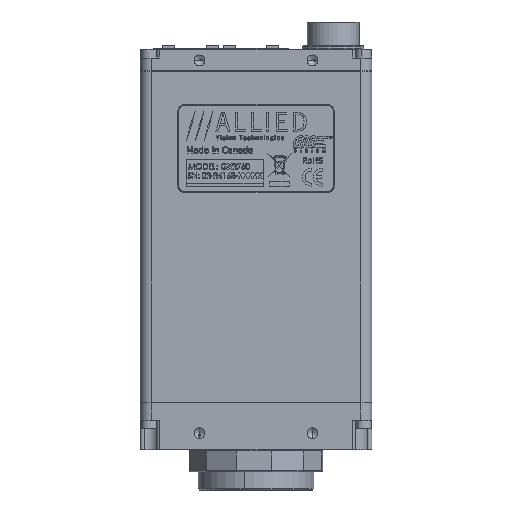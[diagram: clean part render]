
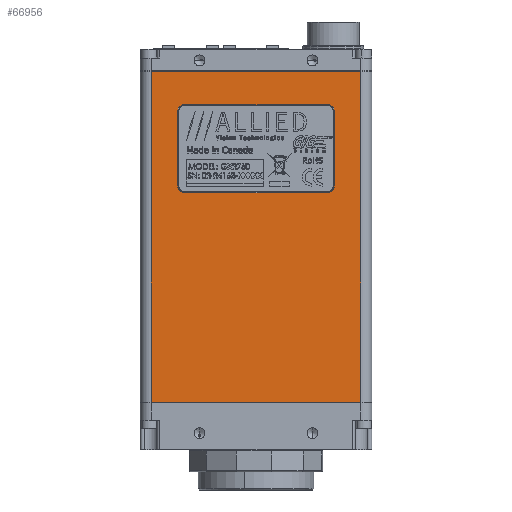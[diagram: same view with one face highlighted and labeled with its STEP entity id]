
A CAD part, front view. The second image highlights one B-rep face of the part: STEP entity #66956.
In plain terms, the highlighted planar face has unit normal (0, -1, 0).
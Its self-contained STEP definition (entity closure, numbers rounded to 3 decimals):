
#855 = CARTESIAN_POINT ( 'NONE',  ( -16.447, -10.16, 30.48 ) ) ;
#2785 = EDGE_CURVE ( 'NONE', #135751, #115791, #13933, .T. ) ;
#3092 = EDGE_CURVE ( 'NONE', #115791, #121587, #55511, .T. ) ;
#5045 = AXIS2_PLACEMENT_3D ( 'NONE', #188997, #91171, #204905 ) ;
#5334 = ORIENTED_EDGE ( 'NONE', *, *, #208596, .T. ) ;
#9314 = DIRECTION ( 'NONE',  ( 1., 0., 0. ) ) ;
#10753 = CARTESIAN_POINT ( 'NONE',  ( 24.13, -10.16, 38.1 ) ) ;
#13933 = LINE ( 'NONE', #189451, #52971 ) ;
#19372 = LINE ( 'NONE', #157946, #102295 ) ;
#19750 = CIRCLE ( 'NONE', #5045, 1.587 ) ;
#20200 = CARTESIAN_POINT ( 'NONE',  ( 16.447, -10.16, 28.893 ) ) ;
#20415 = ORIENTED_EDGE ( 'NONE', *, *, #202386, .T. ) ;
#20848 = ORIENTED_EDGE ( 'NONE', *, *, #206817, .T. ) ;
#26908 = CARTESIAN_POINT ( 'NONE',  ( 16.447, -10.16, 30.48 ) ) ;
#27392 = CARTESIAN_POINT ( 'NONE',  ( -16.447, -10.16, 10.16 ) ) ;
#30774 = DIRECTION ( 'NONE',  ( 0., -1., 0. ) ) ;
#32711 = VECTOR ( 'NONE', #134606, 1000. ) ;
#35725 = CARTESIAN_POINT ( 'NONE',  ( 24.13, -10.16, -38.1 ) ) ;
#36819 = DIRECTION ( 'NONE',  ( 1., 0., 0. ) ) ;
#37914 = CARTESIAN_POINT ( 'NONE',  ( -24.13, -10.16, 38.1 ) ) ;
#39079 = EDGE_LOOP ( 'NONE', ( #54388, #59608, #54595, #52107 ) ) ;
#40817 = AXIS2_PLACEMENT_3D ( 'NONE', #205578, #108561, #9314 ) ;
#43654 = FACE_OUTER_BOUND ( 'NONE', #39079, .T. ) ;
#45213 = DIRECTION ( 'NONE',  ( 0., 1., 0. ) ) ;
#49746 = LINE ( 'NONE', #142768, #175531 ) ;
#51644 = CARTESIAN_POINT ( 'NONE',  ( 18.034, -10.16, -92.399 ) ) ;
#52107 = ORIENTED_EDGE ( 'NONE', *, *, #211864, .T. ) ;
#52971 = VECTOR ( 'NONE', #180386, 1000. ) ;
#54388 = ORIENTED_EDGE ( 'NONE', *, *, #2785, .T. ) ;
#54595 = ORIENTED_EDGE ( 'NONE', *, *, #210408, .T. ) ;
#55511 = LINE ( 'NONE', #149019, #203537 ) ;
#56293 = CARTESIAN_POINT ( 'NONE',  ( 24.13, -10.16, -92.399 ) ) ;
#59608 = ORIENTED_EDGE ( 'NONE', *, *, #3092, .T. ) ;
#63667 = VERTEX_POINT ( 'NONE', #147519 ) ;
#66463 = AXIS2_PLACEMENT_3D ( 'NONE', #129697, #30774, #146263 ) ;
#66956 = ADVANCED_FACE ( 'NONE', ( #43654, #87627 ), #161929, .T. ) ;
#67460 = ORIENTED_EDGE ( 'NONE', *, *, #205594, .T. ) ;
#69569 = CIRCLE ( 'NONE', #105166, 1.587 ) ;
#72268 = ORIENTED_EDGE ( 'NONE', *, *, #201128, .T. ) ;
#73218 = VECTOR ( 'NONE', #171103, 1000. ) ;
#76009 = DIRECTION ( 'NONE',  ( 1., 0., 0. ) ) ;
#81438 = VERTEX_POINT ( 'NONE', #116064 ) ;
#87627 = FACE_BOUND ( 'NONE', #212111, .T. ) ;
#91171 = DIRECTION ( 'NONE',  ( 0., 1., 0. ) ) ;
#102295 = VECTOR ( 'NONE', #76009, 1000. ) ;
#105166 = AXIS2_PLACEMENT_3D ( 'NONE', #20200, #135714, #36819 ) ;
#107463 = CIRCLE ( 'NONE', #40817, 1.587 ) ;
#108561 = DIRECTION ( 'NONE',  ( 0., 1., 0. ) ) ;
#113423 = ORIENTED_EDGE ( 'NONE', *, *, #199634, .T. ) ;
#113981 = LINE ( 'NONE', #204937, #200250 ) ;
#115621 = CARTESIAN_POINT ( 'NONE',  ( 18.034, -10.16, 11.748 ) ) ;
#115719 = VERTEX_POINT ( 'NONE', #855 ) ;
#115791 = VERTEX_POINT ( 'NONE', #37914 ) ;
#116064 = CARTESIAN_POINT ( 'NONE',  ( 16.447, -10.16, 10.16 ) ) ;
#121587 = VERTEX_POINT ( 'NONE', #209243 ) ;
#126074 = CARTESIAN_POINT ( 'NONE',  ( -18.034, -10.16, 11.748 ) ) ;
#129697 = CARTESIAN_POINT ( 'NONE',  ( 24.13, -10.16, -92.399 ) ) ;
#130411 = VECTOR ( 'NONE', #183439, 1000. ) ;
#134606 = DIRECTION ( 'NONE',  ( 1., 0., 0. ) ) ;
#135714 = DIRECTION ( 'NONE',  ( 0., 1., 0. ) ) ;
#135751 = VERTEX_POINT ( 'NONE', #10753 ) ;
#138733 = AXIS2_PLACEMENT_3D ( 'NONE', #143936, #45213, #160370 ) ;
#141087 = VERTEX_POINT ( 'NONE', #27392 ) ;
#142768 = CARTESIAN_POINT ( 'NONE',  ( 24.13, -10.16, 10.16 ) ) ;
#143712 = VERTEX_POINT ( 'NONE', #115621 ) ;
#143936 = CARTESIAN_POINT ( 'NONE',  ( 16.447, -10.16, 11.748 ) ) ;
#145744 = DIRECTION ( 'NONE',  ( 0., 0., -1. ) ) ;
#146263 = DIRECTION ( 'NONE',  ( 1., 0., 0. ) ) ;
#147519 = CARTESIAN_POINT ( 'NONE',  ( 24.13, -10.16, -38.1 ) ) ;
#149019 = CARTESIAN_POINT ( 'NONE',  ( -24.13, -10.16, -92.399 ) ) ;
#157788 = DIRECTION ( 'NONE',  ( -1., 0., 0. ) ) ;
#157946 = CARTESIAN_POINT ( 'NONE',  ( 24.13, -10.16, 30.48 ) ) ;
#160370 = DIRECTION ( 'NONE',  ( 1., 0., 0. ) ) ;
#161929 = PLANE ( 'NONE',  #66463 ) ;
#165070 = CARTESIAN_POINT ( 'NONE',  ( -18.034, -10.16, 28.893 ) ) ;
#169393 = DIRECTION ( 'NONE',  ( 0., 0., 1. ) ) ;
#171103 = DIRECTION ( 'NONE',  ( 0., 0., 1. ) ) ;
#173778 = LINE ( 'NONE', #51644, #130411 ) ;
#175243 = VERTEX_POINT ( 'NONE', #193377 ) ;
#175531 = VECTOR ( 'NONE', #157788, 1000. ) ;
#180386 = DIRECTION ( 'NONE',  ( -1., 0., 0. ) ) ;
#180423 = ORIENTED_EDGE ( 'NONE', *, *, #208614, .T. ) ;
#183439 = DIRECTION ( 'NONE',  ( 0., 0., -1. ) ) ;
#183865 = VERTEX_POINT ( 'NONE', #165070 ) ;
#188997 = CARTESIAN_POINT ( 'NONE',  ( -16.447, -10.16, 11.748 ) ) ;
#189451 = CARTESIAN_POINT ( 'NONE',  ( 24.13, -10.16, 38.1 ) ) ;
#192263 = VERTEX_POINT ( 'NONE', #126074 ) ;
#193377 = CARTESIAN_POINT ( 'NONE',  ( 18.034, -10.16, 28.893 ) ) ;
#194926 = ORIENTED_EDGE ( 'NONE', *, *, #204105, .T. ) ;
#195530 = VERTEX_POINT ( 'NONE', #26908 ) ;
#195558 = CIRCLE ( 'NONE', #138733, 1.587 ) ;
#198254 = LINE ( 'NONE', #56293, #73218 ) ;
#199634 = EDGE_CURVE ( 'NONE', #195530, #175243, #69569, .T. ) ;
#200250 = VECTOR ( 'NONE', #169393, 1000. ) ;
#201128 = EDGE_CURVE ( 'NONE', #175243, #143712, #173778, .T. ) ;
#202386 = EDGE_CURVE ( 'NONE', #143712, #81438, #195558, .T. ) ;
#203537 = VECTOR ( 'NONE', #145744, 1000. ) ;
#204105 = EDGE_CURVE ( 'NONE', #81438, #141087, #49746, .T. ) ;
#204905 = DIRECTION ( 'NONE',  ( 1., 0., 0. ) ) ;
#204937 = CARTESIAN_POINT ( 'NONE',  ( -18.034, -10.16, -92.399 ) ) ;
#205578 = CARTESIAN_POINT ( 'NONE',  ( -16.447, -10.16, 28.893 ) ) ;
#205594 = EDGE_CURVE ( 'NONE', #141087, #192263, #19750, .T. ) ;
#206715 = LINE ( 'NONE', #35725, #32711 ) ;
#206817 = EDGE_CURVE ( 'NONE', #192263, #183865, #113981, .T. ) ;
#208596 = EDGE_CURVE ( 'NONE', #183865, #115719, #107463, .T. ) ;
#208614 = EDGE_CURVE ( 'NONE', #115719, #195530, #19372, .T. ) ;
#209243 = CARTESIAN_POINT ( 'NONE',  ( -24.13, -10.16, -38.1 ) ) ;
#210408 = EDGE_CURVE ( 'NONE', #121587, #63667, #206715, .T. ) ;
#211864 = EDGE_CURVE ( 'NONE', #63667, #135751, #198254, .T. ) ;
#212111 = EDGE_LOOP ( 'NONE', ( #5334, #180423, #113423, #72268, #20415, #194926, #67460, #20848 ) ) ;
